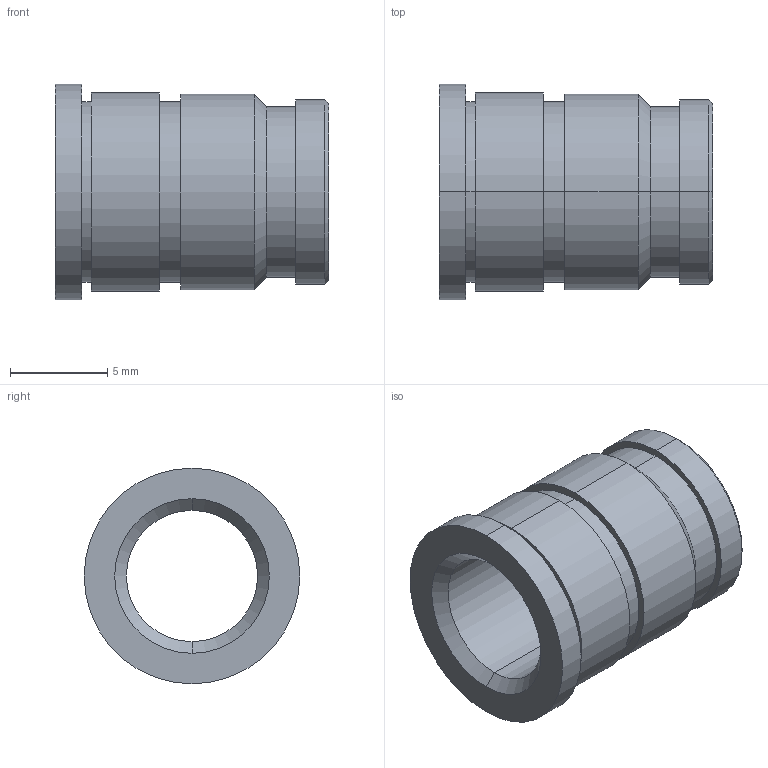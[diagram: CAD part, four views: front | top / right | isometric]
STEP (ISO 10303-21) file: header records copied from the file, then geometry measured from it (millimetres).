
FILE_DESCRIPTION (( 'STEP AP203' ), '1' );
FILE_NAME ('FSUK-HISH-M08-S.STEP', '2021-04-15T08:57:13', ( '' ), ( '' ), 'SwSTEP 2.0', 'SolidWorks 2021', '' );
FILE_SCHEMA (( 'CONFIG_CONTROL_DESIGN' ));
Length unit declared in the file: millimetre
Products named in the file (1): FSUK-HISH-M08-S
Bounding box: 14.05 x 11.1 x 11.1 mm (x, y, z)
Volume: 568.7 mm3; surface area: 897.9 mm2
Topology: 1 solids, 1 shells, 31 faces, 62 edges, 38 vertices
Faces by surface type: cylinder 16, cone 8, plane 7
Entity records: 895 total; most frequent: DIRECTION 164, CARTESIAN_POINT 132, ORIENTED_EDGE 124, AXIS2_PLACEMENT_3D 70, EDGE_CURVE 62, EDGE_LOOP 38, CIRCLE 38, VERTEX_POINT 38
